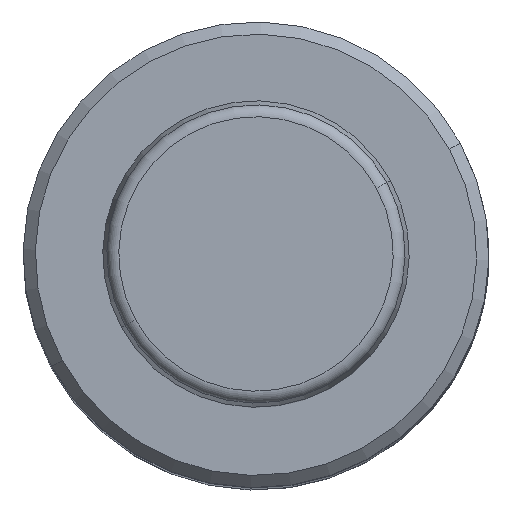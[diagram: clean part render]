
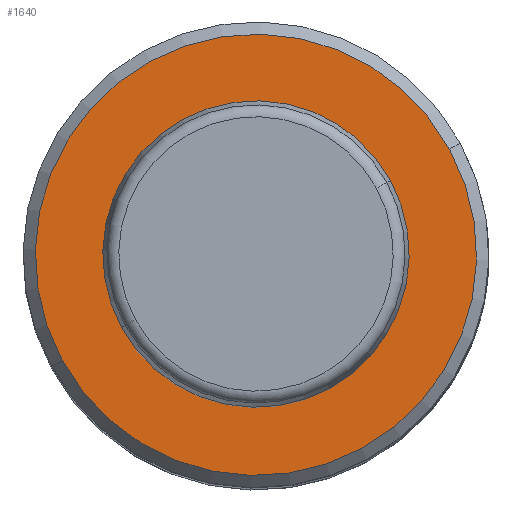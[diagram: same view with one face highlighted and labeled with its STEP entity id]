
A CAD part, top view. The second image highlights one B-rep face of the part: STEP entity #1640.
In plain terms, the highlighted planar face has unit normal (0, 0, 1).
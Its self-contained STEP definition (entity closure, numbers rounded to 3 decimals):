
#1412=CARTESIAN_POINT('Axis2P3D Location',(0.,0.,91.)) ;
#1416=CARTESIAN_POINT('Vertex',(15.796,8.63,91.)) ;
#1418=CARTESIAN_POINT('Vertex',(-15.796,-8.63,91.)) ;
#1447=CARTESIAN_POINT('Axis2P3D Location',(0.,0.,91.)) ;
#1631=CARTESIAN_POINT('Axis2P3D Location',(18.,0.,91.)) ;
#1413=DIRECTION('Axis2P3D Direction',(0.,0.,-1.)) ;
#1448=DIRECTION('Axis2P3D Direction',(0.,0.,-1.)) ;
#1632=DIRECTION('Axis2P3D Direction',(0.,0.,1.)) ;
#1633=DIRECTION('Axis2P3D XDirection',(1.,0.,0.)) ;
#1414=AXIS2_PLACEMENT_3D('Circle Axis2P3D',#1412,#1413,$) ;
#1449=AXIS2_PLACEMENT_3D('Circle Axis2P3D',#1447,#1448,$) ;
#1634=AXIS2_PLACEMENT_3D('Plane Axis2P3D',#1631,#1632,#1633) ;
#1637=ORIENTED_EDGE('',*,*,#1420,.T.) ;
#1638=ORIENTED_EDGE('',*,*,#1451,.T.) ;
#1640=ADVANCED_FACE('',(#1639),#1635,.T.) ;
#1415=CIRCLE('generated circle',#1414,18.) ;
#1450=CIRCLE('generated circle',#1449,18.) ;
#1420=EDGE_CURVE('',#1417,#1419,#1415,.F.) ;
#1451=EDGE_CURVE('',#1419,#1417,#1450,.F.) ;
#1636=EDGE_LOOP('',(#1637,#1638)) ;
#1639=FACE_OUTER_BOUND('',#1636,.T.) ;
#1635=PLANE('Plane',#1634) ;
#1417=VERTEX_POINT('',#1416) ;
#1419=VERTEX_POINT('',#1418) ;
